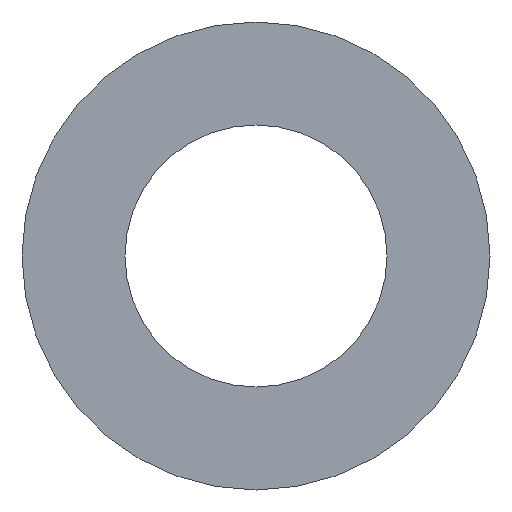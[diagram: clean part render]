
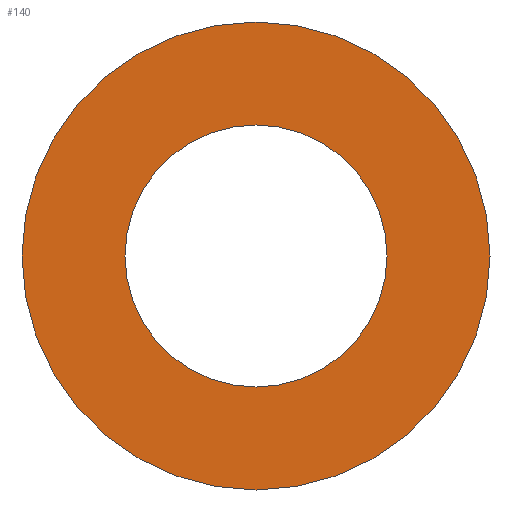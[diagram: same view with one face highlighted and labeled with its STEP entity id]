
A CAD part, front view. The second image highlights one B-rep face of the part: STEP entity #140.
In plain terms, the highlighted planar face has unit normal (0, -1, 0).
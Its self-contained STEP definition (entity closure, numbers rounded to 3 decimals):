
#31 = CYLINDRICAL_SURFACE('',#32,20.);
#32 = AXIS2_PLACEMENT_3D('',#33,#34,#35);
#33 = CARTESIAN_POINT('',(220.,-85.913,125.));
#34 = DIRECTION('',(0.,1.,0.));
#35 = DIRECTION('',(0.,-0.,1.));
#56 = VERTEX_POINT('',#57);
#57 = CARTESIAN_POINT('',(220.,-85.913,145.));
#78 = EDGE_CURVE('',#56,#56,#79,.T.);
#79 = SURFACE_CURVE('',#80,(#85,#92),.PCURVE_S1.);
#80 = CIRCLE('',#81,20.);
#81 = AXIS2_PLACEMENT_3D('',#82,#83,#84);
#82 = CARTESIAN_POINT('',(220.,-85.913,125.));
#83 = DIRECTION('',(0.,1.,0.));
#84 = DIRECTION('',(0.,-0.,1.));
#85 = PCURVE('',#31,#86);
#86 = DEFINITIONAL_REPRESENTATION('',(#87),#91);
#87 = LINE('',#88,#89);
#88 = CARTESIAN_POINT('',(0.,0.));
#89 = VECTOR('',#90,1.);
#90 = DIRECTION('',(1.,0.));
#91 = ( GEOMETRIC_REPRESENTATION_CONTEXT(2) 
PARAMETRIC_REPRESENTATION_CONTEXT() REPRESENTATION_CONTEXT('2D SPACE',''
  ) );
#92 = PCURVE('',#93,#98);
#93 = PLANE('',#94);
#94 = AXIS2_PLACEMENT_3D('',#95,#96,#97);
#95 = CARTESIAN_POINT('',(220.,-85.913,125.));
#96 = DIRECTION('',(0.,1.,0.));
#97 = DIRECTION('',(0.,-0.,1.));
#98 = DEFINITIONAL_REPRESENTATION('',(#99),#103);
#99 = CIRCLE('',#100,20.);
#100 = AXIS2_PLACEMENT_2D('',#101,#102);
#101 = CARTESIAN_POINT('',(0.,0.));
#102 = DIRECTION('',(1.,0.));
#103 = ( GEOMETRIC_REPRESENTATION_CONTEXT(2) 
PARAMETRIC_REPRESENTATION_CONTEXT() REPRESENTATION_CONTEXT('2D SPACE',''
  ) );
#129 = CYLINDRICAL_SURFACE('',#130,11.2);
#130 = AXIS2_PLACEMENT_3D('',#131,#132,#133);
#131 = CARTESIAN_POINT('',(220.,-85.913,125.));
#132 = DIRECTION('',(0.,1.,0.));
#133 = DIRECTION('',(0.,-0.,1.));
#140 = ADVANCED_FACE('',(#141,#144),#93,.F.);
#141 = FACE_BOUND('',#142,.F.);
#142 = EDGE_LOOP('',(#143));
#143 = ORIENTED_EDGE('',*,*,#78,.T.);
#144 = FACE_BOUND('',#145,.F.);
#145 = EDGE_LOOP('',(#146));
#146 = ORIENTED_EDGE('',*,*,#147,.F.);
#147 = EDGE_CURVE('',#148,#148,#150,.T.);
#148 = VERTEX_POINT('',#149);
#149 = CARTESIAN_POINT('',(220.,-85.913,136.2));
#150 = SURFACE_CURVE('',#151,(#156,#163),.PCURVE_S1.);
#151 = CIRCLE('',#152,11.2);
#152 = AXIS2_PLACEMENT_3D('',#153,#154,#155);
#153 = CARTESIAN_POINT('',(220.,-85.913,125.));
#154 = DIRECTION('',(0.,1.,0.));
#155 = DIRECTION('',(0.,-0.,1.));
#156 = PCURVE('',#93,#157);
#157 = DEFINITIONAL_REPRESENTATION('',(#158),#162);
#158 = CIRCLE('',#159,11.2);
#159 = AXIS2_PLACEMENT_2D('',#160,#161);
#160 = CARTESIAN_POINT('',(0.,0.));
#161 = DIRECTION('',(1.,0.));
#162 = ( GEOMETRIC_REPRESENTATION_CONTEXT(2) 
PARAMETRIC_REPRESENTATION_CONTEXT() REPRESENTATION_CONTEXT('2D SPACE',''
  ) );
#163 = PCURVE('',#129,#164);
#164 = DEFINITIONAL_REPRESENTATION('',(#165),#169);
#165 = LINE('',#166,#167);
#166 = CARTESIAN_POINT('',(0.,0.));
#167 = VECTOR('',#168,1.);
#168 = DIRECTION('',(1.,0.));
#169 = ( GEOMETRIC_REPRESENTATION_CONTEXT(2) 
PARAMETRIC_REPRESENTATION_CONTEXT() REPRESENTATION_CONTEXT('2D SPACE',''
  ) );
